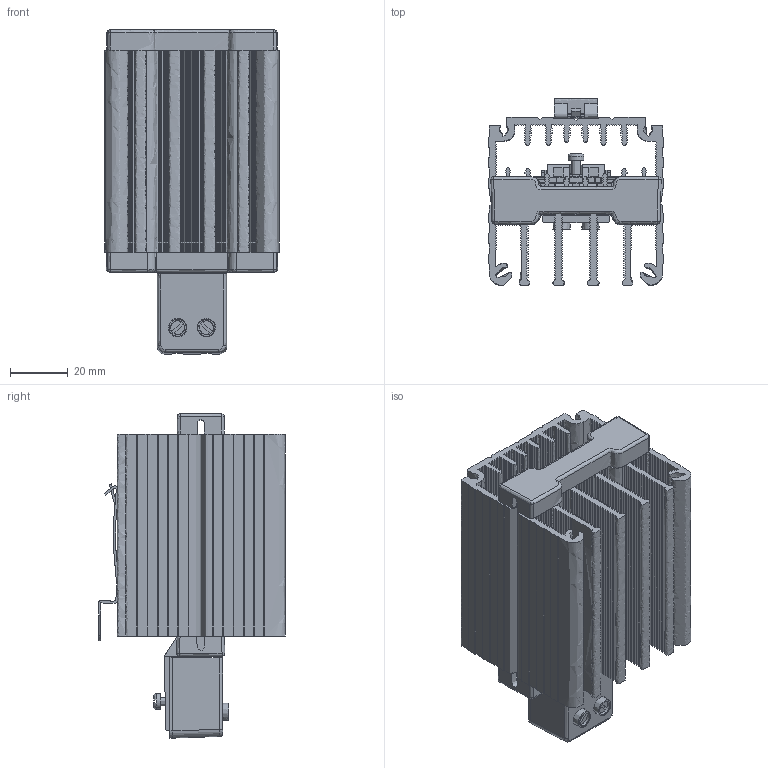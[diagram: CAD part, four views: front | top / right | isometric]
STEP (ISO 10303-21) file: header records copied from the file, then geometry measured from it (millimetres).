
FILE_DESCRIPTION(/* description */ (''),/* implementation_level */ '2;1');
FILE_NAME(/* name */ 'HT2500~1',/* time_stamp */ '2023-01-24T11:16:58+01:00',/* author */ (''),/* organization */ (''),/* preprocessor_version */ 'ST-DEVELOPER v16.5',/* originating_system */ '',/* authorisation */ '');
FILE_SCHEMA (('AUTOMOTIVE_DESIGN'));
Length unit declared in the file: millimetre
Products named in the file (1): Document
Bounding box: 60.5 x 64.76 x 112.38 mm (x, y, z)
Volume: 89827.7 mm3; surface area: 102351.3 mm2
Topology: 16 solids, 31 shells, 1517 faces, 4430 edges, 2965 vertices
Faces by surface type: plane 847, bspline 670
Entity records: 52765 total; most frequent: CARTESIAN_POINT 26500, ORIENTED_EDGE 8454, EDGE_CURVE 4306, B_SPLINE_CURVE_WITH_KNOTS 3005, VERTEX_POINT 2847, EDGE_LOOP 1521, ADVANCED_FACE 1495, FACE_OUTER_BOUND 1495
